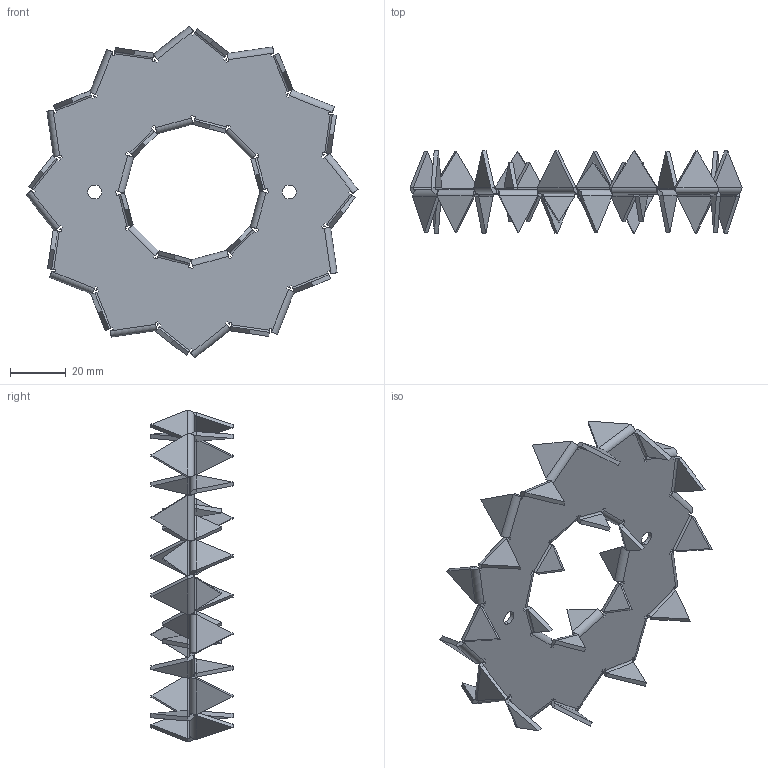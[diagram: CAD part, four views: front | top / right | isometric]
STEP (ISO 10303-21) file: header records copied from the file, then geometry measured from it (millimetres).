
FILE_DESCRIPTION (( 'STEP AP203' ), '1' );
FILE_NAME ('D117.STEP', '2020-05-20T08:27:11', ( '' ), ( '' ), 'SwSTEP 2.0', 'SolidWorks 2013', '' );
FILE_SCHEMA (( 'CONFIG_CONTROL_DESIGN' ));
Length unit declared in the file: millimetre
Products named in the file (1): D117
Bounding box: 119.36 x 29.5 x 119.36 mm (x, y, z)
Volume: 16357.3 mm3; surface area: 23819.6 mm2
Topology: 1 solids, 1 shells, 486 faces, 1164 edges, 680 vertices
Faces by surface type: plane 410, cylinder 76
Entity records: 13645 total; most frequent: CARTESIAN_POINT 2331, ORIENTED_EDGE 2328, DIRECTION 2290, EDGE_CURVE 1164, LINE 1012, VECTOR 1012, VERTEX_POINT 680, AXIS2_PLACEMENT_3D 639
